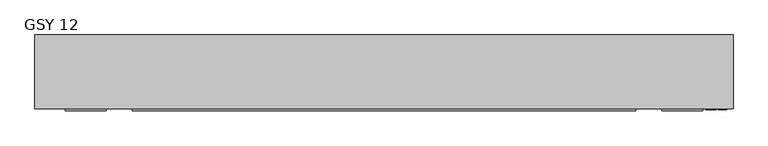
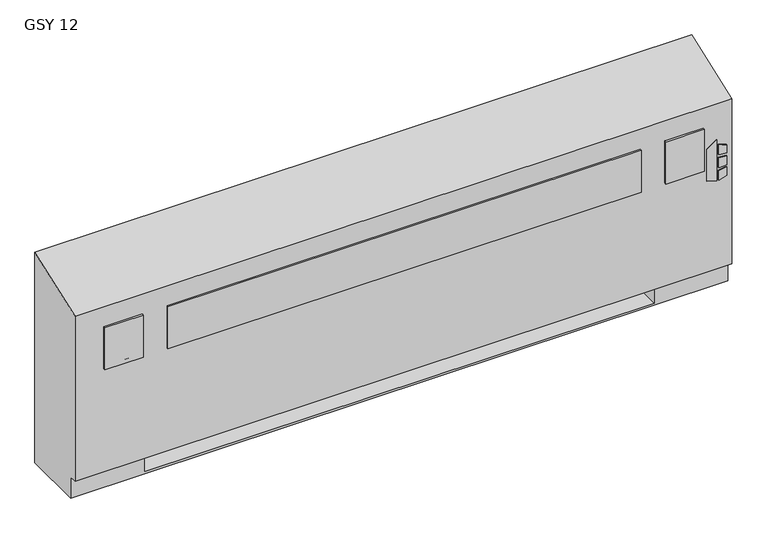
"""IFC4 building model written with IfcOpenShell, lengths in millimetres: proxy geometry, Vertical_Fan_Coil_Unit_-_GSY_-_IEC_-_2-Pipe_FS-FR_LH_2022 : GSY 12."""

from ifc_helpers import new_model, si_unit, point, frame, frame_2d, origin, place, context, project, spatial, polyline, circle_curve, trimmed, segment, composite_curve, outline, extrude, source, transform, mapped, element, save
from ifc_brep_helpers import plane_surface, revolved_surface, advanced_brep


def gsy_12_d7ed669c(model_context):
    return source(origin(), model_context, "Body", "SolidModel", [
        extrude(outline(polyline([(391.6086829, 1147.8368862), (381.6606126, 1180.0102728), (523.831537, 1180.0102728), (500.8095309, 1147.8368862), (391.6086829, 1147.8368862)])), frame((0.0, 12.7, 0.0), z_axis=(0.0, 1.0, 0.0), x_axis=(0.0, 0.0, 1.0)), (0.0, 0.0, 1.0), 3.175),
        extrude(outline(polyline([(470.6079683, 1186.7686058), (467.4055757, 1212.85), (496.6344168, 1212.85), (504.6988318, 1186.7686058), (470.6079683, 1186.7686058)])), frame((0.0, 12.7, 0.0), z_axis=(0.0, 1.0, 0.0), x_axis=(0.0, 0.0, 1.0)), (0.0, 0.0, 1.0), 3.175),
        extrude(outline(polyline([(418.7444414, 1212.85), (415.0789404, 1186.7686058), (381.6606126, 1186.7686058), (390.2948498, 1212.85), (418.7444414, 1212.85)])), frame((0.0, 12.7, 0.0), z_axis=(0.0, 1.0, 0.0), x_axis=(0.0, 0.0, 1.0)), (0.0, 0.0, 1.0), 3.175),
        extrude(outline(polyline([(458.0596028, 1212.85), (460.3414292, 1186.7686058), (424.4038806, 1186.7686058), (427.1451456, 1212.85), (458.0596028, 1212.85)])), frame((0.0, 12.7, 0.0), z_axis=(0.0, 1.0, 0.0), x_axis=(0.0, 0.0, 1.0)), (0.0, 0.0, 1.0), 3.175),
        extrude(outline(polyline([(-705.993, 9.525), (-832.993, 9.525), (-832.993, 15.875), (-705.993, 15.875), (-705.993, 9.525)])), frame((0.0, 0.0, 431.8), z_axis=(0.0, 0.0, 1.0), x_axis=(1.0, 0.0, 0.0)), (0.0, 0.0, 1.0), 146.05),
        extrude(outline(polyline([(930.275, 9.525), (-625.475, 9.525), (-625.475, 15.875), (930.275, 15.875), (930.275, 9.525)])), frame((0.0, 0.0, 431.8), z_axis=(0.0, 0.0, 1.0), x_axis=(1.0, 0.0, 0.0)), (0.0, 0.0, 1.0), 146.05),
        extrude(outline(polyline([(1137.793, 9.525), (1010.793, 9.525), (1010.793, 15.875), (1137.793, 15.875), (1137.793, 9.525)])), frame((0.0, 0.0, 431.8), z_axis=(0.0, 0.0, 1.0), x_axis=(1.0, 0.0, 0.0)), (0.0, 0.0, 1.0), 146.05),
        extrude(outline(polyline([(990.6, 81.534), (990.6, 223.266), (1111.25, 223.266), (1111.25, 81.534), (990.6, 81.534)])), frame((0.0, 0.0, 327.025), z_axis=(0.0, 0.0, 1.0), x_axis=(1.0, 0.0, 0.0)), (0.0, 0.0, 1.0), 260.35),
        extrude(outline(composite_curve([segment(trimmed(circle_curve(frame_2d((80.645, 397.002)), 7.9375), [point((80.645, 404.9395))], [point((80.645, 389.0645))], False, "CARTESIAN"), True, "CONTINUOUS"), segment(trimmed(circle_curve(frame_2d((80.645, 397.002)), 7.9375), [point((80.645, 389.0645))], [point((80.645, 404.9395))], False, "CARTESIAN"), True, "CONTINUOUS")], self_intersect=False)), frame((-736.6, 0.0, 0.0), z_axis=(1.0, 0.0, 0.0), x_axis=(0.0, 1.0, 0.0)), (0.0, 0.0, 1.0), 50.8),
        extrude(outline(composite_curve([segment(trimmed(circle_curve(frame_2d((156.8958, 535.8892)), 7.9375), [point((156.8958, 543.8267))], [point((156.8958, 527.9517))], False, "CARTESIAN"), True, "CONTINUOUS"), segment(trimmed(circle_curve(frame_2d((156.8958, 535.8892)), 7.9375), [point((156.8958, 527.9517))], [point((156.8958, 543.8267))], False, "CARTESIAN"), True, "CONTINUOUS")], self_intersect=False)), frame((-736.6, 0.0, 0.0), z_axis=(1.0, 0.0, 0.0), x_axis=(0.0, 1.0, 0.0)), (0.0, 0.0, 1.0), 50.8),
        advanced_brep(
        [(-927.1, 244.475, 0.0), (1231.9, 244.475, 0.0), (1231.9, 41.275, 0.0), (-927.1, 41.275, 0.0), (-927.1, 244.475, 730.25), (1231.9, 244.475, 730.25), (990.6, 244.475, 73.025), (1219.2, 244.475, 73.025), (1219.2, 244.475, 654.05), (990.6, 244.475, 654.05), (990.6, 244.475, 414.8650565), (1019.175, 244.475, 414.8650565), (1019.175, 244.475, 385.2349435), (990.6, 244.475, 385.2349435), (990.6, 244.475, 287.3375), (1019.175, 244.475, 287.3375), (1019.175, 244.475, 258.7625), (990.6, 244.475, 258.7625), (990.6, 244.475, 141.2875), (1019.175, 244.475, 141.2875), (1019.175, 244.475, 112.7125), (990.6, 244.475, 112.7125), (-685.8, 244.475, 654.05), (-914.4, 244.475, 654.05), (-914.4, 244.475, 73.025), (-685.8, 244.475, 73.025), (-685.8, 244.475, 112.7125), (-714.375, 244.475, 112.7125), (-714.375, 244.475, 141.2875), (-685.8, 244.475, 141.2875), (-685.8, 244.475, 258.7625), (-714.375, 244.475, 258.7625), (-714.375, 244.475, 287.3375), (-685.8, 244.475, 287.3375), (-685.8, 244.475, 385.2349435), (-714.375, 244.475, 385.2349435), (-714.375, 244.475, 414.8650565), (-685.8, 244.475, 414.8650565), (1008.8626, 244.475, 127.0), (997.7374, 244.475, 127.0), (1008.8626, 244.475, 400.05), (997.7374, 244.475, 400.05), (1008.8626, 244.475, 273.05), (997.7374, 244.475, 273.05), (-692.9374, 244.475, 127.0), (-704.0626, 244.475, 127.0), (-692.9374, 244.475, 273.05), (-704.0626, 244.475, 273.05), (-692.9374, 244.475, 400.05), (-704.0626, 244.475, 400.05), (-927.1, 41.275, 73.025), (-927.1, 15.875, 73.025), (-927.1, 15.875, 647.7), (1231.9, 15.875, 73.025), (1231.9, 15.875, 647.7), (1231.9, 41.275, 73.025), (-685.8, 41.275, 73.025), (-685.8, 225.425, 73.025), (990.6, 225.425, 73.025), (990.6, 41.275, 73.025), (990.6, 41.275, 6.35), (-685.8, 41.275, 6.35), (990.6, 41.275, 654.05), (1219.2, 41.275, 654.05), (1219.2, 41.275, 73.025), (990.6, 41.275, 73.025), (-685.8, 41.275, 654.05), (-685.8, 41.275, 73.025), (-914.4, 41.275, 73.025), (-914.4, 41.275, 654.05), (990.6, 225.425, 73.025), (990.6, 238.125, 112.7125), (990.6, 238.125, 141.2875), (990.6, 238.125, 258.7625), (990.6, 238.125, 287.3375), (990.6, 238.125, 385.2349435), (990.6, 238.125, 414.8650565), (-685.8, 225.425, 73.025), (-685.8, 238.125, 414.8650565), (-685.8, 238.125, 385.2349435), (-685.8, 238.125, 287.3375), (-685.8, 238.125, 258.7625), (-685.8, 238.125, 141.2875), (-685.8, 238.125, 112.7125), (-685.8, 225.425, 6.35), (990.6, 225.425, 6.35), (1019.175, 238.125, 112.7125), (1019.175, 238.125, 141.2875), (997.7374, 238.125, 127.0), (1008.8626, 238.125, 127.0), (1019.175, 238.125, 258.7625), (1019.175, 238.125, 287.3375), (997.7374, 238.125, 273.05), (1008.8626, 238.125, 273.05), (1019.175, 238.125, 385.2349435), (1019.175, 238.125, 414.8650565), (997.7374, 238.125, 400.05), (1008.8626, 238.125, 400.05), (-714.375, 238.125, 141.2875), (-714.375, 238.125, 112.7125), (-704.0626, 238.125, 127.0), (-692.9374, 238.125, 127.0), (-714.375, 238.125, 287.3375), (-714.375, 238.125, 258.7625), (-704.0626, 238.125, 273.05), (-692.9374, 238.125, 273.05), (-714.375, 238.125, 414.8650565), (-714.375, 238.125, 385.2349435), (-704.0626, 238.125, 400.05), (-692.9374, 238.125, 400.05)],
        [
            (0, 1),
            (1, 2),
            (2, 3),
            (3, 0),
            (0, 4),
            (4, 5),
            (5, 1),
            (6, 7),
            (7, 8),
            (8, 9),
            (9, 10),
            (10, 11),
            (11, 12),
            (12, 13),
            (13, 14),
            (14, 15),
            (15, 16),
            (16, 17),
            (17, 18),
            (18, 19),
            (19, 20),
            (20, 21),
            (21, 6),
            (22, 23),
            (23, 24),
            (24, 25),
            (25, 26),
            (26, 27),
            (27, 28),
            (28, 29),
            (29, 30),
            (30, 31),
            (31, 32),
            (32, 33),
            (33, 34),
            (34, 35),
            (35, 36),
            (36, 37),
            (37, 22),
            (38, 39, circle_curve(frame((1003.3, 244.475, 127.0), z_axis=(0.0, -1.0, 0.0), x_axis=(-1.0, 0.0, 0.0)), 5.5626)),
            (39, 38, circle_curve(frame((1003.3, 244.475, 127.0), z_axis=(0.0, -1.0, 0.0), x_axis=(-1.0, 0.0, 0.0)), 5.5626)),
            (40, 41, circle_curve(frame((1003.3, 244.475, 400.05), z_axis=(0.0, -1.0, 0.0), x_axis=(-1.0, 0.0, 0.0)), 5.5626)),
            (41, 40, circle_curve(frame((1003.3, 244.475, 400.05), z_axis=(0.0, -1.0, 0.0), x_axis=(-1.0, 0.0, 0.0)), 5.5626)),
            (42, 43, circle_curve(frame((1003.3, 244.475, 273.05), z_axis=(0.0, -1.0, 0.0), x_axis=(-1.0, 0.0, 0.0)), 5.5626)),
            (43, 42, circle_curve(frame((1003.3, 244.475, 273.05), z_axis=(0.0, -1.0, 0.0), x_axis=(-1.0, 0.0, 0.0)), 5.5626)),
            (44, 45, circle_curve(frame((-698.5, 244.475, 127.0), z_axis=(0.0, -1.0, 0.0), x_axis=(-1.0, 0.0, 0.0)), 5.5626)),
            (45, 44, circle_curve(frame((-698.5, 244.475, 127.0), z_axis=(0.0, -1.0, 0.0), x_axis=(-1.0, 0.0, 0.0)), 5.5626)),
            (46, 47, circle_curve(frame((-698.5, 244.475, 273.05), z_axis=(0.0, -1.0, 0.0), x_axis=(-1.0, 0.0, 0.0)), 5.5626)),
            (47, 46, circle_curve(frame((-698.5, 244.475, 273.05), z_axis=(0.0, -1.0, 0.0), x_axis=(-1.0, 0.0, 0.0)), 5.5626)),
            (48, 49, circle_curve(frame((-698.5, 244.475, 400.05), z_axis=(0.0, -1.0, 0.0), x_axis=(-1.0, 0.0, 0.0)), 5.5626)),
            (49, 48, circle_curve(frame((-698.5, 244.475, 400.05), z_axis=(0.0, -1.0, 0.0), x_axis=(-1.0, 0.0, 0.0)), 5.5626)),
            (3, 50),
            (50, 51),
            (51, 52),
            (52, 4),
            (51, 53),
            (53, 54),
            (54, 52),
            (5, 54),
            (53, 55),
            (55, 2),
            (50, 56),
            (56, 57),
            (57, 58),
            (58, 59),
            (59, 55),
            (59, 60),
            (60, 61),
            (61, 56),
            (62, 63),
            (63, 64),
            (64, 65),
            (65, 62),
            (66, 67),
            (67, 68),
            (68, 69),
            (69, 66),
            (65, 70),
            (70, 6),
            (21, 71),
            (71, 72),
            (72, 18),
            (17, 73),
            (73, 74),
            (74, 14),
            (13, 75),
            (75, 76),
            (76, 10),
            (9, 62),
            (64, 7),
            (63, 8),
            (69, 23),
            (22, 66),
            (68, 24),
            (67, 77),
            (77, 25),
            (37, 78),
            (78, 79),
            (79, 34),
            (33, 80),
            (80, 81),
            (81, 30),
            (29, 82),
            (82, 83),
            (83, 26),
            (57, 84),
            (84, 85),
            (85, 58),
            (85, 60),
            (84, 61),
            (71, 86),
            (86, 87),
            (87, 72),
            (88, 89, circle_curve(frame((1003.3, 238.125, 127.0), z_axis=(0.0, 1.0, 0.0), x_axis=(-1.0, 0.0, 0.0)), 5.5626)),
            (89, 88, circle_curve(frame((1003.3, 238.125, 127.0), z_axis=(0.0, 1.0, 0.0), x_axis=(-1.0, 0.0, 0.0)), 5.5626)),
            (73, 90),
            (90, 91),
            (91, 74),
            (92, 93, circle_curve(frame((1003.3, 238.125, 273.05), z_axis=(0.0, 1.0, 0.0), x_axis=(-1.0, 0.0, 0.0)), 5.5626)),
            (93, 92, circle_curve(frame((1003.3, 238.125, 273.05), z_axis=(0.0, 1.0, 0.0), x_axis=(-1.0, 0.0, 0.0)), 5.5626)),
            (75, 94),
            (94, 95),
            (95, 76),
            (96, 97, circle_curve(frame((1003.3, 238.125, 400.05), z_axis=(0.0, 1.0, 0.0), x_axis=(-1.0, 0.0, 0.0)), 5.5626)),
            (97, 96, circle_curve(frame((1003.3, 238.125, 400.05), z_axis=(0.0, 1.0, 0.0), x_axis=(-1.0, 0.0, 0.0)), 5.5626)),
            (98, 99),
            (99, 83),
            (82, 98),
            (100, 101, circle_curve(frame((-698.5, 238.125, 127.0), z_axis=(0.0, 1.0, 0.0), x_axis=(-1.0, 0.0, 0.0)), 5.5626)),
            (101, 100, circle_curve(frame((-698.5, 238.125, 127.0), z_axis=(0.0, 1.0, 0.0), x_axis=(-1.0, 0.0, 0.0)), 5.5626)),
            (102, 103),
            (103, 81),
            (80, 102),
            (104, 105, circle_curve(frame((-698.5, 238.125, 273.05), z_axis=(0.0, 1.0, 0.0), x_axis=(-1.0, 0.0, 0.0)), 5.5626)),
            (105, 104, circle_curve(frame((-698.5, 238.125, 273.05), z_axis=(0.0, 1.0, 0.0), x_axis=(-1.0, 0.0, 0.0)), 5.5626)),
            (106, 107),
            (107, 79),
            (78, 106),
            (108, 109, circle_curve(frame((-698.5, 238.125, 400.05), z_axis=(0.0, 1.0, 0.0), x_axis=(-1.0, 0.0, 0.0)), 5.5626)),
            (109, 108, circle_curve(frame((-698.5, 238.125, 400.05), z_axis=(0.0, 1.0, 0.0), x_axis=(-1.0, 0.0, 0.0)), 5.5626)),
            (87, 19),
            (86, 20),
            (91, 15),
            (90, 16),
            (95, 11),
            (94, 12),
            (28, 98),
            (99, 27),
            (32, 102),
            (103, 31),
            (36, 106),
            (107, 35),
            (88, 39),
            (38, 89),
            (96, 41),
            (40, 97),
            (92, 43),
            (42, 93),
            (100, 45),
            (44, 101),
            (104, 47),
            (46, 105),
            (108, 49),
            (48, 109),
        ],
        [
            plane_surface(frame((-927.1, 244.475, 0.0), z_axis=(0.0, 0.0, -1.0), x_axis=(1.0, 0.0, 0.0))),
            plane_surface(frame((1231.9, 244.475, 730.25), z_axis=(0.0, 1.0, 0.0), x_axis=(0.0, 0.0, -1.0))),
            plane_surface(frame((-927.1, 244.475, 730.25), z_axis=(-1.0, 0.0, 0.0), x_axis=(0.0, 0.0, -1.0))),
            plane_surface(frame((-927.1, 15.875, 730.25), z_axis=(0.0, -1.0, 0.0), x_axis=(0.0, 0.0, -1.0))),
            plane_surface(frame((1231.9, 15.875, 730.25), z_axis=(1.0, 0.0, 0.0), x_axis=(0.0, 0.0, -1.0))),
            plane_surface(frame((-927.1, 15.875, 73.025), z_axis=(0.0, 0.0, -1.0), x_axis=(1.0, 0.0, 0.0))),
            plane_surface(frame((-927.1, 41.275, 73.025), z_axis=(0.0, -1.0, 0.0), x_axis=(1.0, 0.0, 0.0))),
            plane_surface(frame((990.6, 41.275, 654.05), z_axis=(0.0, 1.0, 0.0), x_axis=(0.0, 0.0, -1.0))),
            plane_surface(frame((990.6, 41.275, 654.05), z_axis=(1.0, 0.0, 0.0), x_axis=(0.0, 1.0, 0.0))),
            plane_surface(frame((990.6, 41.275, 73.025), z_axis=(0.0, 0.0, 1.0), x_axis=(0.0, 1.0, 0.0))),
            plane_surface(frame((1219.2, 41.275, 73.025), z_axis=(-1.0, 0.0, 0.0), x_axis=(0.0, 1.0, 0.0))),
            plane_surface(frame((1219.2, 41.275, 654.05), z_axis=(0.0, 0.0, -1.0), x_axis=(0.0, 1.0, 0.0))),
            plane_surface(frame((-685.8, 41.275, 654.05), z_axis=(0.0, 0.0, -1.0), x_axis=(0.0, 1.0, 0.0))),
            plane_surface(frame((-914.4, 41.275, 654.05), z_axis=(1.0, 0.0, 0.0), x_axis=(0.0, 1.0, 0.0))),
            plane_surface(frame((-914.4, 41.275, 73.025), z_axis=(0.0, 0.0, 1.0), x_axis=(0.0, 1.0, 0.0))),
            plane_surface(frame((-685.8, 41.275, 73.025), z_axis=(-1.0, 0.0, 0.0), x_axis=(0.0, 1.0, 0.0))),
            plane_surface(frame((990.6, 225.425, 73.025), z_axis=(0.0, -1.0, 0.0), x_axis=(0.0, 0.0, -1.0))),
            plane_surface(frame((990.6, 225.425, 73.025), z_axis=(-1.0, 0.0, 0.0), x_axis=(0.0, -1.0, 0.0))),
            plane_surface(frame((990.6, 225.425, 6.35), z_axis=(0.0, 0.0, 1.0), x_axis=(0.0, -1.0, 0.0))),
            plane_surface(frame((-685.8, 225.425, 6.35), z_axis=(1.0, 0.0, 0.0), x_axis=(0.0, -1.0, 0.0))),
            plane_surface(frame((1019.175, 238.125, 141.2875), z_axis=(0.0, -1.0, 0.0), x_axis=(-1.0, 0.0, 0.0))),
            plane_surface(frame((990.6, 244.475, 141.2875), z_axis=(0.0, 0.0, 1.0), x_axis=(0.0, -1.0, 0.0))),
            plane_surface(frame((1019.175, 244.475, 141.2875), z_axis=(1.0, 0.0, 0.0), x_axis=(0.0, -1.0, 0.0))),
            plane_surface(frame((1019.175, 244.475, 112.7125), z_axis=(0.0, 0.0, -1.0), x_axis=(0.0, -1.0, 0.0))),
            plane_surface(frame((990.6, 244.475, 287.3375), z_axis=(0.0, 0.0, 1.0), x_axis=(0.0, -1.0, 0.0))),
            plane_surface(frame((1019.175, 244.475, 287.3375), z_axis=(1.0, 0.0, 0.0), x_axis=(0.0, -1.0, 0.0))),
            plane_surface(frame((1019.175, 244.475, 258.7625), z_axis=(0.0, 0.0, -1.0), x_axis=(0.0, -1.0, 0.0))),
            plane_surface(frame((990.6, 244.475, 414.8650565), z_axis=(0.0, 0.0, 1.0), x_axis=(0.0, -1.0, 0.0))),
            plane_surface(frame((1019.175, 244.475, 414.8650565), z_axis=(1.0, 0.0, 0.0), x_axis=(0.0, -1.0, 0.0))),
            plane_surface(frame((1019.175, 244.475, 385.2349435), z_axis=(0.0, 0.0, -1.0), x_axis=(0.0, -1.0, 0.0))),
            plane_surface(frame((-714.375, 244.475, 141.2875), z_axis=(0.0, 0.0, 1.0), x_axis=(0.0, -1.0, 0.0))),
            plane_surface(frame((-685.8, 244.475, 112.7125), z_axis=(0.0, 0.0, -1.0), x_axis=(0.0, -1.0, 0.0))),
            plane_surface(frame((-714.375, 244.475, 112.7125), z_axis=(-1.0, 0.0, 0.0), x_axis=(0.0, -1.0, 0.0))),
            plane_surface(frame((-714.375, 244.475, 287.3375), z_axis=(0.0, 0.0, 1.0), x_axis=(0.0, -1.0, 0.0))),
            plane_surface(frame((-685.8, 244.475, 258.7625), z_axis=(0.0, 0.0, -1.0), x_axis=(0.0, -1.0, 0.0))),
            plane_surface(frame((-714.375, 244.475, 258.7625), z_axis=(-1.0, 0.0, 0.0), x_axis=(0.0, -1.0, 0.0))),
            plane_surface(frame((-714.375, 244.475, 414.8650565), z_axis=(0.0, 0.0, 1.0), x_axis=(0.0, -1.0, 0.0))),
            plane_surface(frame((-685.8, 244.475, 385.2349435), z_axis=(0.0, 0.0, -1.0), x_axis=(0.0, -1.0, 0.0))),
            plane_surface(frame((-714.375, 244.475, 385.2349435), z_axis=(-1.0, 0.0, 0.0), x_axis=(0.0, -1.0, 0.0))),
            revolved_surface(polyline([(997.7374, 238.125, 127.0), (997.7374, 244.475, 127.0)]), (1003.3, 244.475, 127.0), (0.0, -1.0, 0.0)),
            revolved_surface(polyline([(997.7374, 238.125, 400.05), (997.7374, 244.475, 400.05)]), (1003.3, 244.475, 400.05), (0.0, -1.0, 0.0)),
            revolved_surface(polyline([(997.7374, 238.125, 273.05), (997.7374, 244.475, 273.05)]), (1003.3, 244.475, 273.05), (0.0, -1.0, 0.0)),
            revolved_surface(polyline([(-704.0626, 238.125, 127.0), (-704.0626, 244.475, 127.0)]), (-698.5, 244.475, 127.0), (0.0, -1.0, 0.0)),
            revolved_surface(polyline([(-704.0626, 238.125, 273.05), (-704.0626, 244.475, 273.05)]), (-698.5, 244.475, 273.05), (0.0, -1.0, 0.0)),
            revolved_surface(polyline([(-704.0626, 238.125, 400.05), (-704.0626, 244.475, 400.05)]), (-698.5, 244.475, 400.05), (0.0, -1.0, 0.0)),
            plane_surface(frame((-927.1, 244.475, 730.25), z_axis=(0.0, -0.33964446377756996, 0.9405538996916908), x_axis=(1.0, 0.0, 0.0))),
        ],
        [
            (0, [[1, 2, 3, 4]]),
            (1, [[-1, 5, 6, 7], [8, 9, 10, 11, 12, 13, 14, 15, 16, 17, 18, 19, 20, 21, 22, 23], [24, 25, 26, 27, 28, 29, 30, 31, 32, 33, 34, 35, 36, 37, 38, 39], [40, 41], [42, 43], [44, 45], [46, 47], [48, 49], [50, 51]]),
            (2, [[-5, -4, 52, 53, 54, 55]]),
            (3, [[56, 57, 58, -54]]),
            (4, [[-7, 59, -57, 60, 61, -2]]),
            (5, [[-53, 62, 63, 64, 65, 66, -60, -56]]),
            (6, [[-3, -61, -66, 67, 68, 69, -62, -52]]),
            (7, [[70, 71, 72, 73]]),
            (7, [[74, 75, 76, 77]]),
            (8, [[-73, 78, 79, -23, 80, 81, 82, -19, 83, 84, 85, -15, 86, 87, 88, -11, 89]]),
            (9, [[-72, 90, -8, -79, -78]]),
            (10, [[-71, 91, -9, -90]]),
            (11, [[-70, -89, -10, -91]]),
            (12, [[-77, 92, -24, 93]]),
            (13, [[-76, 94, -25, -92]]),
            (14, [[-75, 95, 96, -26, -94]]),
            (15, [[-74, -93, -39, 97, 98, 99, -35, 100, 101, 102, -31, 103, 104, 105, -27, -96, -95]]),
            (16, [[-64, 106, 107, 108]]),
            (17, [[-108, 109, -67, -65]]),
            (18, [[-107, 110, -68, -109]]),
            (19, [[-106, -63, -69, -110]]),
            (20, [[111, 112, 113, -81], [114, 115]]),
            (20, [[116, 117, 118, -84], [119, 120]]),
            (20, [[121, 122, 123, -87], [124, 125]]),
            (20, [[126, 127, -104, 128], [129, 130]]),
            (20, [[131, 132, -101, 133], [134, 135]]),
            (20, [[136, 137, -98, 138], [139, 140]]),
            (21, [[-113, 141, -20, -82]]),
            (22, [[-112, 142, -21, -141]]),
            (23, [[-111, -80, -22, -142]]),
            (24, [[-118, 143, -16, -85]]),
            (25, [[-117, 144, -17, -143]]),
            (26, [[-116, -83, -18, -144]]),
            (27, [[-123, 145, -12, -88]]),
            (28, [[-122, 146, -13, -145]]),
            (29, [[-121, -86, -14, -146]]),
            (30, [[-128, -103, -30, 147]]),
            (31, [[-127, 148, -28, -105]]),
            (32, [[-126, -147, -29, -148]]),
            (33, [[-133, -100, -34, 149]]),
            (34, [[-132, 150, -32, -102]]),
            (35, [[-131, -149, -33, -150]]),
            (36, [[-138, -97, -38, 151]]),
            (37, [[-137, 152, -36, -99]]),
            (38, [[-136, -151, -37, -152]]),
            (39, [[153, -40, 154, -114]]),
            (39, [[-153, -115, -154, -41]]),
            (40, [[155, -42, 156, -124]]),
            (40, [[-155, -125, -156, -43]]),
            (41, [[157, -44, 158, -119]]),
            (41, [[-157, -120, -158, -45]]),
            (42, [[159, -46, 160, -129]]),
            (42, [[-159, -130, -160, -47]]),
            (43, [[161, -48, 162, -134]]),
            (43, [[-161, -135, -162, -49]]),
            (44, [[163, -50, 164, -139]]),
            (44, [[-163, -140, -164, -51]]),
            (45, [[-6, -55, -58, -59]]),
        ],
    ),
    ])


if __name__ == "__main__":
    model = new_model("IFC4")
    model_context = context("Model", 3, world=origin())
    ifc_project = project(units=[si_unit("LENGTHUNIT", "METRE", prefix="MILLI")], contexts=[model_context])
    site = spatial("IfcSite", under=ifc_project)
    building = spatial("IfcBuilding", under=site)
    placement = place(None, origin())
    gsy_12_shape = gsy_12_d7ed669c(model_context)
    element("IfcBuildingElementProxy", 1, Name="Vertical_Fan_Coil_Unit_-_GSY_-_IEC_-_2-Pipe_FS-FR_LH_2022 : GSY 12", ObjectType="Vertical_Fan_Coil_Unit_-_GSY_-_IEC_-_2-Pipe_FS-FR_LH_2022 : GSY 12", at=placement, inside=building, context=model_context, shape_type="MappedRepresentation", body=[
        mapped(gsy_12_shape, transform((0.0, 0.0, 0.0), x_axis=(1.0, 0.0, 0.0), y_axis=(0.0, 1.0, 0.0), z_axis=(0.0, 0.0, 1.0))),
    ])
    save(model, "model.ifc")
